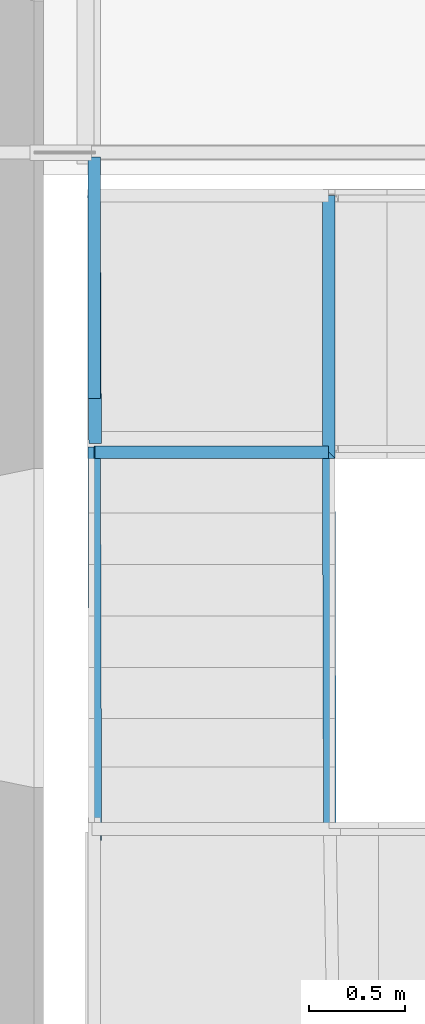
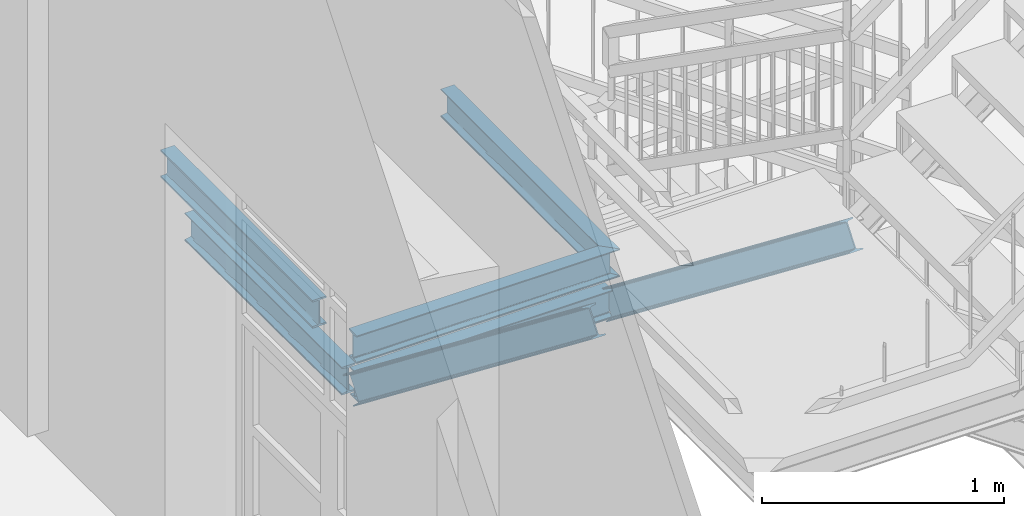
# One storey, part 10 of 33: 7 beams.
"""IFC2X3 building model written with IfcOpenShell, lengths in metres."""

import ifcopenshell
import ifcopenshell.guid

model = None  # the IFC model being written
_history = None  # IfcOwnerHistory: only IFC2X3 demands one
_inside = {}  # id of a spatial element -> (the spatial element, [elements in it])
_under = {}  # id of a project, library or spatial element -> (it, [spatial elements below it])
_declared = {}  # id of a project -> (the project, [libraries it declares])
_typed = {}  # id of a type object -> (the type object, [elements of that type])
_made_of = {}  # id of a material, layer set ... -> (it, [elements and type objects made of it])


def new_model(schema):
    """Start an empty IFC model of exactly this schema.

    Asked for "IFC4X3", IfcOpenShell would pick the latest addendum, in which some entities
    have other attributes; the version numbers below select the first issue.
    IFC2X3 requires an IfcOwnerHistory on every rooted entity: one is made here for all.
    """
    global model, _history
    if schema == "IFC4X3":
        model = ifcopenshell.file(schema_version=(4, 3, 0, 0))
    else:
        model = ifcopenshell.file(schema=schema)
    _inside.clear()
    _under.clear()
    _declared.clear()
    _typed.clear()
    _made_of.clear()
    _history = None
    if model.schema == "IFC2X3":
        org = make("IfcOrganization", Name="unknown")
        user = make(
            "IfcPersonAndOrganization",
            ThePerson=make("IfcPerson", FamilyName="unknown"),
            TheOrganization=org,
        )
        app = make(
            "IfcApplication",
            ApplicationDeveloper=org,
            Version="unknown",
            ApplicationFullName="unknown",
            ApplicationIdentifier="unknown",
        )
        _history = make(
            "IfcOwnerHistory",
            OwningUser=user,
            OwningApplication=app,
            ChangeAction="ADDED",
            CreationDate=0,
        )
    return model


def make(cls, **values):
    """One entity of the class cls with the attributes given. An attribute that is None is left unset."""
    return model.create_entity(
        cls, **{name: value for name, value in values.items() if value is not None}
    )


def entity(cls, *values):
    """Any entity or typed value of the class cls, its attributes in the order of the schema. None: left unset."""
    e = model.create_entity(cls)
    for i, value in enumerate(values):
        if value is not None:
            e[i] = value
    return e


def rooted(cls, **values):
    """An entity with a GlobalId (a new one), such as an element, a storey or a relation."""
    return make(cls, GlobalId=ifcopenshell.guid.new(), OwnerHistory=_history, **values)


def si_unit(unit_type, name, prefix=None):
    """IfcSIUnit, for example si_unit("LENGTHUNIT", "METRE", prefix="MILLI")."""
    return make("IfcSIUnit", UnitType=unit_type, Prefix=prefix, Name=name)


def converted_unit(unit_type, name, factor, base, dimensions=None, offset=None):
    """IfcConversionBasedUnit, such as the inch: factor (a typed value) times the base unit."""
    return make(
        "IfcConversionBasedUnit"
        if offset is None
        else "IfcConversionBasedUnitWithOffset",
        ConversionOffset=offset,
        Dimensions=None
        if dimensions is None
        else entity("IfcDimensionalExponents", *dimensions),
        UnitType=unit_type,
        Name=name,
        ConversionFactor=make(
            "IfcMeasureWithUnit", ValueComponent=factor, UnitComponent=base
        ),
    )


def derived_unit(unit_type, elements):
    """IfcDerivedUnit: a product of units, each with its exponent."""
    return make(
        "IfcDerivedUnit",
        Elements=[
            make("IfcDerivedUnitElement", Unit=unit, Exponent=power)
            for unit, power in elements
        ],
        UnitType=unit_type,
    )


def assignment(units):
    """IfcUnitAssignment: the units of a project."""
    return None if units is None else make("IfcUnitAssignment", Units=units)


def point(xyz):
    """IfcCartesianPoint."""
    return None if xyz is None else make("IfcCartesianPoint", Coordinates=xyz)


def direction(xyz):
    """IfcDirection."""
    return None if xyz is None else make("IfcDirection", DirectionRatios=xyz)


def frame(location, z_axis=None, x_axis=None):
    """IfcAxis2Placement3D, a coordinate frame: its origin and axes. An axis left out is left unset."""
    return make(
        "IfcAxis2Placement3D",
        Location=point(location),
        Axis=direction(z_axis),
        RefDirection=direction(x_axis),
    )


def frame_2d(location, x_axis=None):
    """IfcAxis2Placement2D, a coordinate frame in the plane: its origin and x axis."""
    return make(
        "IfcAxis2Placement2D", Location=point(location), RefDirection=direction(x_axis)
    )


def origin():
    """The frame at (0, 0, 0) with its axes left unset."""
    return frame((0.0, 0.0, 0.0))


def origin_2d():
    """The frame at (0, 0) in the plane with its x axis left unset."""
    return frame_2d((0.0, 0.0))


def place(relative_to, where):
    """IfcLocalPlacement: puts the frame where relative to a parent placement (None: the world)."""
    return make(
        "IfcLocalPlacement", PlacementRelTo=relative_to, RelativePlacement=where
    )


def context(
    kind, dimensions, precision=None, world=None, true_north=None, identifier=None
):
    """IfcGeometricRepresentationContext, for example the 3D "Model" context."""
    return make(
        "IfcGeometricRepresentationContext",
        ContextIdentifier=identifier,
        ContextType=kind,
        CoordinateSpaceDimension=dimensions,
        Precision=precision,
        WorldCoordinateSystem=world,
        TrueNorth=true_north,
    )


def subcontext(parent, identifier, kind, view, scale=None):
    """IfcGeometricRepresentationSubContext, for example "Body" below "Model"."""
    return make(
        "IfcGeometricRepresentationSubContext",
        ContextIdentifier=identifier,
        ContextType=kind,
        ParentContext=parent,
        TargetScale=scale,
        TargetView=view,
    )


def project(units=None, contexts=None):
    """IfcProject with its units and contexts."""
    return rooted(
        "IfcProject",
        Name="project",
        RepresentationContexts=contexts,
        UnitsInContext=assignment(units),
    )


def spatial(cls, under=None, at=None, **own):
    """A site, building, storey or space (cls), placed at a placement, below another one or the project."""
    s = rooted(cls, ObjectPlacement=at, **own)
    if under is not None:
        _under.setdefault(under.id(), (under, []))[1].append(s)
    return s


def polyline(points):
    """IfcPolyline through the points."""
    return make("IfcPolyline", Points=[point(p) for p in points])


def circle_curve(where, radius):
    """IfcCircle in the frame where."""
    return make("IfcCircle", Position=where, Radius=radius)


def parameter(value):
    """IfcParameterValue: where a trimmed curve begins or ends, as a parameter of its basis curve."""
    return model.create_entity("IfcParameterValue", value)


def trimmed(basis, trim1, trim2, sense, master):
    """IfcTrimmedCurve: the piece of a basis curve between two trims."""
    return make(
        "IfcTrimmedCurve",
        BasisCurve=basis,
        Trim1=trim1,
        Trim2=trim2,
        SenseAgreement=sense,
        MasterRepresentation=master,
    )


def segment(curve, same_sense, transition):
    """IfcCompositeCurveSegment."""
    return make(
        "IfcCompositeCurveSegment",
        Transition=transition,
        SameSense=same_sense,
        ParentCurve=curve,
    )


def composite_curve(segments, self_intersect=None):
    """IfcCompositeCurve: segments joined end to end."""
    return make("IfcCompositeCurve", Segments=segments, SelfIntersect=self_intersect)


def profile(cls, at=None, kind="AREA", **sizes):
    """A parametric profile (cls). Its sizes go by their IFC names, for example OverallWidth=200.0."""
    return make(cls, ProfileType=kind, Position=at, **sizes)


def i_section(**sizes):
    """IfcIShapeProfileDef."""
    return profile("IfcIShapeProfileDef", **sizes)


def outline(outer, holes=None, kind="AREA"):
    """IfcArbitraryClosedProfileDef: a profile drawn as a closed curve; with holes, ...WithVoids."""
    if holes is None:
        return make("IfcArbitraryClosedProfileDef", ProfileType=kind, OuterCurve=outer)
    return make(
        "IfcArbitraryProfileDefWithVoids",
        ProfileType=kind,
        OuterCurve=outer,
        InnerCurves=holes,
    )


def extrude(swept, where, along, depth):
    """IfcExtrudedAreaSolid: the profile swept, set in the frame where, extruded along a direction by depth."""
    return make(
        "IfcExtrudedAreaSolid",
        SweptArea=swept,
        Position=where,
        ExtrudedDirection=direction(along),
        Depth=depth,
    )


def clip(a, b, op="DIFFERENCE"):
    """IfcBooleanClippingResult: the solid a cut by the half space b."""
    return make(
        "IfcBooleanClippingResult", Operator=op, FirstOperand=a, SecondOperand=b
    )


def halfspace(plane, agree):
    """IfcHalfSpaceSolid: all space on one side of the plane z = 0 of the frame plane."""
    return make(
        "IfcHalfSpaceSolid",
        BaseSurface=make("IfcPlane", Position=plane),
        AgreementFlag=agree,
    )


def shape(context_of_items, identifier, shape_type, items):
    """IfcShapeRepresentation: the items that make up one representation, for example the "Body"."""
    return make(
        "IfcShapeRepresentation",
        ContextOfItems=context_of_items,
        RepresentationIdentifier=identifier,
        RepresentationType=shape_type,
        Items=items,
    )


def material(Name=None, Category=None):
    """IfcMaterial."""
    return make("IfcMaterial", Name=Name, Category=Category)


def made_of(thing, what):
    """Note that an element or type object is made of a material, layer set ...; save() writes the relation."""
    if what is not None:
        _made_of.setdefault(what.id(), (what, []))[1].append(thing)
    return thing


def type_object(cls, material=None, **own):
    """A type object (cls), such as IfcWallType, which elements share."""
    return made_of(rooted(cls, **own), material)


def element(
    cls,
    number,
    at=None,
    inside=None,
    cuts=None,
    type_object=None,
    material=None,
    context=None,
    identifier="Body",
    shape_type=None,
    held_by="IfcProductDefinitionShape",
    body=None,
    shapes=None,
    **own,
):
    """One element of the class cls, such as IfcWall. Its Tag is "e" and its number.

    at: its placement. inside: the storey or other place that contains it. cuts: it is an
    opening in that element (IfcRelVoidsElement). A single representation is given by context,
    identifier, shape_type and body (its items); several are given by shapes. held_by: the class
    of the entity that holds the representations. save() writes the other relations.
    """
    e = rooted(cls, Tag="e%d" % number, ObjectPlacement=at, **own)
    if body is not None:
        shapes = [shape(context, identifier, shape_type, body)]
    if shapes is not None:
        e.Representation = make(held_by, Representations=shapes)
    if inside is not None:
        _inside.setdefault(inside.id(), (inside, []))[1].append(e)
    if cuts is not None:
        rooted(
            "IfcRelVoidsElement", RelatingBuildingElement=cuts, RelatedOpeningElement=e
        )
    if type_object is not None:
        _typed.setdefault(type_object.id(), (type_object, []))[1].append(e)
    return made_of(e, material)


def aggregate(whole, parts):
    """IfcRelAggregates: a whole, such as a stair, and the parts it consists of."""
    return rooted("IfcRelAggregates", RelatingObject=whole, RelatedObjects=parts)


def save(model, path):
    """Write the relations noted so far, then the file.

    IfcRelAggregates (storeys below a building ...), IfcRelContainedInSpatialStructure (elements
    in a storey), IfcRelDefinesByType, IfcRelAssociatesMaterial and IfcRelDeclares: one each for
    every whole, place, type object, material and project.
    """
    for whole, parts in _under.values():
        aggregate(whole, parts)
    for where, things in _inside.values():
        rooted(
            "IfcRelContainedInSpatialStructure",
            RelatedElements=things,
            RelatingStructure=where,
        )
    for kind, things in _typed.values():
        rooted("IfcRelDefinesByType", RelatedObjects=things, RelatingType=kind)
    for what, things in _made_of.values():
        rooted("IfcRelAssociatesMaterial", RelatedObjects=things, RelatingMaterial=what)
    for by, libraries in _declared.values():
        rooted("IfcRelDeclares", RelatingContext=by, RelatedDefinitions=libraries)
    model.write(path)


model = new_model("IFC2X3")

# Units and contexts
model_context = context("Model", 3, precision=1e-05, world=origin(), true_north=direction((6.12303176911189e-17, 1.0)))
body_context = subcontext(model_context, "Body", "Model", "MODEL_VIEW")
ifc_project = project(units=[si_unit("LENGTHUNIT", "METRE"), si_unit("AREAUNIT", "SQUARE_METRE"), si_unit("VOLUMEUNIT", "CUBIC_METRE"), converted_unit("PLANEANGLEUNIT", "DEGREE", entity("IfcRatioMeasure", 0.0174532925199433), si_unit("PLANEANGLEUNIT", "RADIAN"), dimensions=[0, 0, 0, 0, 0, 0, 0]), si_unit("MASSUNIT", "GRAM", prefix="KILO"), derived_unit("MASSDENSITYUNIT", [(si_unit("MASSUNIT", "GRAM", prefix="KILO"), 1), (si_unit("LENGTHUNIT", "METRE"), -3)]), derived_unit("MOMENTOFINERTIAUNIT", [(si_unit("LENGTHUNIT", "METRE"), 4)]), si_unit("TIMEUNIT", "SECOND"), si_unit("FREQUENCYUNIT", "HERTZ"), si_unit("THERMODYNAMICTEMPERATUREUNIT", "DEGREE_CELSIUS"), derived_unit("THERMALTRANSMITTANCEUNIT", [(si_unit("MASSUNIT", "GRAM", prefix="KILO"), 1), (si_unit("THERMODYNAMICTEMPERATUREUNIT", "KELVIN"), -1), (si_unit("TIMEUNIT", "SECOND"), -3)]), derived_unit("VOLUMETRICFLOWRATEUNIT", [(si_unit("LENGTHUNIT", "METRE"), 3), (si_unit("TIMEUNIT", "SECOND"), -1)]), si_unit("ELECTRICCURRENTUNIT", "AMPERE"), si_unit("ELECTRICVOLTAGEUNIT", "VOLT"), si_unit("POWERUNIT", "WATT"), si_unit("FORCEUNIT", "NEWTON", prefix="KILO"), si_unit("ILLUMINANCEUNIT", "LUX"), si_unit("LUMINOUSFLUXUNIT", "LUMEN"), si_unit("LUMINOUSINTENSITYUNIT", "CANDELA"), derived_unit("USERDEFINED", [(si_unit("MASSUNIT", "GRAM", prefix="KILO"), -1), (si_unit("LENGTHUNIT", "METRE"), -2), (si_unit("TIMEUNIT", "SECOND"), 3), (si_unit("LUMINOUSFLUXUNIT", "LUMEN"), 1)]), derived_unit("LINEARVELOCITYUNIT", [(si_unit("LENGTHUNIT", "METRE"), 1), (si_unit("TIMEUNIT", "SECOND"), -1)]), si_unit("PRESSUREUNIT", "PASCAL"), derived_unit("USERDEFINED", [(si_unit("LENGTHUNIT", "METRE"), -2), (si_unit("MASSUNIT", "GRAM", prefix="KILO"), 1), (si_unit("TIMEUNIT", "SECOND"), -2)]), derived_unit("LINEARFORCEUNIT", [(si_unit("MASSUNIT", "GRAM", prefix="KILO"), 1), (si_unit("LENGTHUNIT", "METRE"), 1), (si_unit("TIMEUNIT", "SECOND"), -2), (si_unit("LENGTHUNIT", "METRE"), -1)]), derived_unit("PLANARFORCEUNIT", [(si_unit("MASSUNIT", "GRAM", prefix="KILO"), 1), (si_unit("LENGTHUNIT", "METRE"), 1), (si_unit("TIMEUNIT", "SECOND"), -2), (si_unit("LENGTHUNIT", "METRE"), -2)])], contexts=[model_context])

# Site, building, storey
site_placement = place(None, origin())
site = spatial("IfcSite", under=ifc_project, at=site_placement, Name="Superficie", CompositionType="ELEMENT")
building_placement = place(site_placement, origin())
building = spatial("IfcBuilding", under=site, at=building_placement, Name="Telegestiones", CompositionType="ELEMENT")
storey_placement = place(building_placement, frame((0.0, 0.0, 4.94)))
storey = spatial("IfcBuildingStorey", under=building, at=storey_placement, Name="Nivel 1_NPT", CompositionType="ELEMENT", Elevation=4.94)

# Beams
ifc_material = material(Name="Metal - Acero - 345 MPa")
beam_type_1 = type_object("IfcBeamType", Name="IPN - Secciones en I con alas cónicas:IPN 140", PredefinedType="NOTDEFINED")
beam_1_placement = place(storey_placement, frame((7.5665983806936, 6.21162508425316, 1.65965000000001), z_axis=(0.0, 0.0, 1.0), x_axis=(0.0, -1.0, 0.0)))
element("IfcBeam", 1, at=beam_1_placement, inside=storey, type_object=beam_type_1, material=ifc_material, Name="IPN - Secciones en I con alas cónicas:IPN 140", ObjectType="IPN - Secciones en I con alas cónicas:IPN 140", context=body_context, shape_type="SweptSolid", body=[
    clip(extrude(outline(composite_curve([segment(polyline([(-0.0699999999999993, -0.0330000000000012), (-0.0666671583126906, -0.0330000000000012)]), True, "CONTINUOUS"), segment(trimmed(circle_curve(frame_2d((-0.0666671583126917, -0.0296000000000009), x_axis=(0.0, -1.0)), 0.00340000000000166), [parameter(0.0)], [parameter(82.0303896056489)], True, "PARAMETER"), True, "CONTINUOUS"), segment(polyline([(-0.0632999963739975, -0.0300714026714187), (-0.060176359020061, -0.00775970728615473)]), True, "CONTINUOUS"), segment(trimmed(circle_curve(frame_2d((-0.0545314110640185, -0.00855000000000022), x_axis=(-0.990341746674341, 0.138647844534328)), 0.00569999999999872), [parameter(277.969610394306)], [parameter(0.0)], True, "PARAMETER"), False, "CONTINUOUS"), segment(polyline([(-0.0545314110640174, -0.00285000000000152), (0.0545314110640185, -0.00285000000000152)]), True, "CONTINUOUS"), segment(trimmed(circle_curve(frame_2d((0.0545314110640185, -0.00855000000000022), x_axis=(0.0, 1.0)), 0.00569999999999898), [parameter(277.969610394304)], [parameter(0.0)], True, "PARAMETER"), False, "CONTINUOUS"), segment(polyline([(0.0601763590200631, -0.00775970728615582), (0.0632999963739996, -0.0300714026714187)]), True, "CONTINUOUS"), segment(trimmed(circle_curve(frame_2d((0.0666671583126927, -0.0296000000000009), x_axis=(-0.990341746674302, -0.138647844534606)), 0.00340000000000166), [parameter(0.0)], [parameter(82.0303896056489)], True, "PARAMETER"), True, "CONTINUOUS"), segment(polyline([(0.0666671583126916, -0.0330000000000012), (0.0700000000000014, -0.0330000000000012)]), True, "CONTINUOUS"), segment(polyline([(0.0700000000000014, -0.0330000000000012), (0.0700000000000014, 0.0329999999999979)]), True, "CONTINUOUS"), segment(polyline([(0.0700000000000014, 0.0329999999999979), (0.0666671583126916, 0.0329999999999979)]), True, "CONTINUOUS"), segment(trimmed(circle_curve(frame_2d((0.0666671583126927, 0.0295999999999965), x_axis=(0.0, 1.0)), 0.00340000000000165), [parameter(0.0)], [parameter(82.0303896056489)], True, "PARAMETER"), True, "CONTINUOUS"), segment(polyline([(0.0632999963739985, 0.0300714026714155), (0.0601763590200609, 0.00775970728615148)]), True, "CONTINUOUS"), segment(trimmed(circle_curve(frame_2d((0.0545314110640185, 0.00854999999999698), x_axis=(0.990341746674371, -0.138647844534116)), 0.00569999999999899), [parameter(277.969610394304)], [parameter(0.0)], True, "PARAMETER"), False, "CONTINUOUS"), segment(polyline([(0.0545314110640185, 0.00284999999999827), (-0.0545314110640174, 0.00284999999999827)]), True, "CONTINUOUS"), segment(trimmed(circle_curve(frame_2d((-0.0545314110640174, 0.00854999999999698), x_axis=(0.0, -1.0)), 0.00569999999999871), [parameter(277.969610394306)], [parameter(0.0)], True, "PARAMETER"), False, "CONTINUOUS"), segment(polyline([(-0.060176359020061, 0.00775970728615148), (-0.0632999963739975, 0.0300714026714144)]), True, "CONTINUOUS"), segment(trimmed(circle_curve(frame_2d((-0.0666671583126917, 0.0295999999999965), x_axis=(0.990341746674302, 0.138647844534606)), 0.00340000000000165), [parameter(0.0)], [parameter(82.0303896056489)], True, "PARAMETER"), True, "CONTINUOUS"), segment(polyline([(-0.0666671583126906, 0.0329999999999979), (-0.0699999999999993, 0.0329999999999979)]), True, "CONTINUOUS"), segment(polyline([(-0.0699999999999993, 0.0329999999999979), (-0.0699999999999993, -0.0330000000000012)]), True, "CONTINUOUS")], self_intersect=False)), frame((0.000133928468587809, 0.0, -0.0700000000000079), z_axis=(1.0, 0.0, 0.0), x_axis=(0.0, 0.0, -1.0)), (0.0, 0.0, 1.0), 1.36713392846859), halfspace(frame((1.30126785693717, -0.0330000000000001, 0.0), z_axis=(0.707106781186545, -0.70710678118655, 0.0), x_axis=(0.70710678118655, 0.707106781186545, 0.0)), False)),
])
beam_2_placement = place(storey_placement, frame((6.3478126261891, 4.87735722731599, 1.65965000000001)))
element("IfcBeam", 2, at=beam_2_placement, inside=storey, type_object=beam_type_1, material=ifc_material, Name="IPN - Secciones en I con alas cónicas:IPN 140", ObjectType="IPN - Secciones en I con alas cónicas:IPN 140", context=body_context, shape_type="SweptSolid", body=[
    clip(extrude(outline(composite_curve([segment(polyline([(-0.0699999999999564, -0.0330000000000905), (-0.0666671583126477, -0.0330000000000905)]), True, "CONTINUOUS"), segment(trimmed(circle_curve(frame_2d((-0.0666671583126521, -0.0296000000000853), x_axis=(0.0, -1.0)), 0.0034000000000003), [parameter(0.0)], [parameter(82.0303896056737)], True, "PARAMETER"), True, "CONTINUOUS"), segment(polyline([(-0.0632999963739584, -0.0300714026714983), (-0.0601763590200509, -0.00775970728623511)]), True, "CONTINUOUS"), segment(trimmed(circle_curve(frame_2d((-0.0545314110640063, -0.00855000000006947), x_axis=(-0.990341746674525, 0.138647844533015)), 0.00569999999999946), [parameter(277.969610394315)], [parameter(0.0)], True, "PARAMETER"), False, "CONTINUOUS"), segment(polyline([(-0.0545314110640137, -0.00285000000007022), (0.0545314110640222, -0.00284999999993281)]), True, "CONTINUOUS"), segment(trimmed(circle_curve(frame_2d((0.0545314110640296, -0.00854999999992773), x_axis=(0.0, 1.0)), 0.00569999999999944), [parameter(277.969610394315)], [parameter(0.0)], True, "PARAMETER"), False, "CONTINUOUS"), segment(polyline([(0.0601763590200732, -0.0077597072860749), (0.0632999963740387, -0.0300714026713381)]), True, "CONTINUOUS"), segment(trimmed(circle_curve(frame_2d((0.0666671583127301, -0.029599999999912), x_axis=(-0.990341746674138, -0.138647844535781)), 0.0034000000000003), [parameter(0.0)], [parameter(82.0303896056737)], True, "PARAMETER"), True, "CONTINUOUS"), segment(polyline([(0.0666671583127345, -0.0329999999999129), (0.0700000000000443, -0.0329999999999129)]), True, "CONTINUOUS"), segment(polyline([(0.0700000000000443, -0.0329999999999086), (0.0699999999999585, 0.0330000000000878)]), True, "CONTINUOUS"), segment(polyline([(0.0699999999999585, 0.0330000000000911), (0.0666671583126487, 0.0330000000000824)]), True, "CONTINUOUS"), segment(trimmed(circle_curve(frame_2d((0.0666671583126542, 0.0296000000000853), x_axis=(0.0, 1.0)), 0.00340000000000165), [parameter(0.0)], [parameter(82.0303896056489)], True, "PARAMETER"), True, "CONTINUOUS"), segment(polyline([(0.0632999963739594, 0.0300714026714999), (0.0601763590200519, 0.00775970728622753)]), True, "CONTINUOUS"), segment(trimmed(circle_curve(frame_2d((0.0545314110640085, 0.00855000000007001), x_axis=(0.990341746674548, -0.138647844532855)), 0.0056999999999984), [parameter(277.969610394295)], [parameter(0.0)], True, "PARAMETER"), False, "CONTINUOUS"), segment(polyline([(0.0545314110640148, 0.00285000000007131), (-0.05453141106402, 0.00284999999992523)]), True, "CONTINUOUS"), segment(trimmed(circle_curve(frame_2d((-0.0545314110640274, 0.00854999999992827), x_axis=(0.0, -1.0)), 0.00569999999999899), [parameter(277.969610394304)], [parameter(0.0)], True, "PARAMETER"), False, "CONTINUOUS"), segment(polyline([(-0.060176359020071, 0.00775970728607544), (-0.0632999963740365, 0.0300714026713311)]), True, "CONTINUOUS"), segment(trimmed(circle_curve(frame_2d((-0.0666671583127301, 0.029599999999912), x_axis=(0.990341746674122, 0.138647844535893)), 0.00340000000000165), [parameter(0.0)], [parameter(82.0303896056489)], True, "PARAMETER"), True, "CONTINUOUS"), segment(polyline([(-0.0666671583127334, 0.0329999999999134), (-0.0700000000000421, 0.0329999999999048)]), True, "CONTINUOUS"), segment(polyline([(-0.0700000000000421, 0.0329999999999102), (-0.0699999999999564, -0.0330000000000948)]), True, "CONTINUOUS")], self_intersect=False)), frame((-0.00245712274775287, 0.0, -0.0700000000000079), z_axis=(1.0, 0.0, 0.0), x_axis=(0.0, 0.0, -1.0)), (0.0, 0.0, 1.0), 1.25424287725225), halfspace(frame((1.1857857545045, 0.0330000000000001, 0.0), z_axis=(0.707106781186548, 0.707106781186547, 0.0), x_axis=(0.707106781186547, -0.707106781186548, 0.0)), False)),
])
beam_3_placement = place(storey_placement, frame((6.35214331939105, 4.87760722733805, 1.46300747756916), z_axis=(-0.000899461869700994, 0.0, 0.999999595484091), x_axis=(0.999999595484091, 0.0, 0.000899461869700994)))
element("IfcBeam", 3, at=beam_3_placement, inside=storey, type_object=beam_type_1, material=ifc_material, Name="IPN - Secciones en I con alas cónicas:IPN 140", ObjectType="IPN - Secciones en I con alas cónicas:IPN 140", context=body_context, shape_type="SweptSolid", body=[
    extrude(outline(composite_curve([segment(polyline([(-0.0699999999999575, -0.0330000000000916), (-0.0666671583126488, -0.0330000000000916)]), True, "CONTINUOUS"), segment(trimmed(circle_curve(frame_2d((-0.0666671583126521, -0.0296000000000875), x_axis=(0.0, -1.0)), 0.00339999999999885), [parameter(0.0)], [parameter(82.0303896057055)], True, "PARAMETER"), True, "CONTINUOUS"), segment(polyline([(-0.0632999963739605, -0.0300714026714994), (-0.060176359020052, -0.00775970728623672)]), True, "CONTINUOUS"), segment(trimmed(circle_curve(frame_2d((-0.0545314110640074, -0.00855000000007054), x_axis=(-0.990341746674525, 0.138647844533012)), 0.00569999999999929), [parameter(277.969610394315)], [parameter(0.0)], True, "PARAMETER"), False, "CONTINUOUS"), segment(polyline([(-0.0545314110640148, -0.0028500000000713), (0.0545314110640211, -0.00284999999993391)]), True, "CONTINUOUS"), segment(trimmed(circle_curve(frame_2d((0.0545314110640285, -0.00854999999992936), x_axis=(0.0, 1.0)), 0.00569999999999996), [parameter(277.96961039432)], [parameter(0.0)], True, "PARAMETER"), False, "CONTINUOUS"), segment(polyline([(0.0601763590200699, -0.00775970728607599), (0.0632999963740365, -0.0300714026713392)]), True, "CONTINUOUS"), segment(trimmed(circle_curve(frame_2d((0.0666671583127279, -0.0295999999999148), x_axis=(-0.990341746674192, -0.13864784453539)), 0.00339999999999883), [parameter(0.0)], [parameter(82.0303896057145)], True, "PARAMETER"), True, "CONTINUOUS"), segment(polyline([(0.0666671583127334, -0.032999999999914), (0.0700000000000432, -0.032999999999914)]), True, "CONTINUOUS"), segment(polyline([(0.0700000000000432, -0.0329999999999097), (0.0699999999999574, 0.0330000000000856)]), True, "CONTINUOUS"), segment(polyline([(0.0699999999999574, 0.03300000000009), (0.0666671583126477, 0.0330000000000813)]), True, "CONTINUOUS"), segment(trimmed(circle_curve(frame_2d((0.066667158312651, 0.0296000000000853), x_axis=(0.0, 1.0)), 0.00340000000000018), [parameter(0.0)], [parameter(82.0303896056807)], True, "PARAMETER"), True, "CONTINUOUS"), segment(polyline([(0.0632999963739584, 0.0300714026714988), (0.0601763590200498, 0.00775970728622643)]), True, "CONTINUOUS"), segment(trimmed(circle_curve(frame_2d((0.0545314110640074, 0.00855000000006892), x_axis=(0.990341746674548, -0.138647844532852)), 0.00569999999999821), [parameter(277.969610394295)], [parameter(0.0)], True, "PARAMETER"), False, "CONTINUOUS"), segment(polyline([(0.0545314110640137, 0.00285000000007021), (-0.0545314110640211, 0.00284999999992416)]), True, "CONTINUOUS"), segment(trimmed(circle_curve(frame_2d((-0.0545314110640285, 0.00854999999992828), x_axis=(0.0, -1.0)), 0.00569999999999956), [parameter(277.969610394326)], [parameter(0.0)], True, "PARAMETER"), False, "CONTINUOUS"), segment(polyline([(-0.060176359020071, 0.00775970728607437), (-0.0632999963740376, 0.0300714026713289)]), True, "CONTINUOUS"), segment(trimmed(circle_curve(frame_2d((-0.0666671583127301, 0.0295999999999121), x_axis=(0.990341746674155, 0.138647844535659)), 0.0034000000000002), [parameter(0.0)], [parameter(82.0303896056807)], True, "PARAMETER"), True, "CONTINUOUS"), segment(polyline([(-0.0666671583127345, 0.0329999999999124), (-0.0700000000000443, 0.0329999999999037)]), True, "CONTINUOUS"), segment(polyline([(-0.0700000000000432, 0.032999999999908), (-0.0699999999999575, -0.0330000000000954)]), True, "CONTINUOUS")], self_intersect=False)), frame((-0.000787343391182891, 0.0, -0.070000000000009), z_axis=(1.0, 0.0, 0.0), x_axis=(0.0, 0.0, -1.0)), (0.0, 0.0, 1.0), 1.21496729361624),
])
beam_4_placement = place(storey_placement, frame((7.5665983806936, 4.8803149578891, 1.46316230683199), z_axis=(-0.00187395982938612, 0.614083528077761, 0.789238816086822), x_axis=(0.0024084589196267, -0.789235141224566, 0.614086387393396)))
element("IfcBeam", 4, at=beam_4_placement, inside=storey, type_object=beam_type_1, material=ifc_material, Name="IPN - Secciones en I con alas cónicas:IPN 140", ObjectType="IPN - Secciones en I con alas cónicas:IPN 140", context=body_context, shape_type="SweptSolid", body=[
    extrude(outline(composite_curve([segment(polyline([(0.0666671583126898, -0.033000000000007), (0.0699999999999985, -0.0330000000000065)]), True, "CONTINUOUS"), segment(polyline([(0.0699999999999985, -0.0330000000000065), (0.0700000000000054, 0.032999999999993)]), True, "CONTINUOUS"), segment(polyline([(0.0700000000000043, 0.032999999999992), (0.0666671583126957, 0.0329999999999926)]), True, "CONTINUOUS"), segment(trimmed(circle_curve(frame_2d((0.0666671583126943, 0.0295999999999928), x_axis=(0.0, 1.0)), 0.00339999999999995), [parameter(0.0)], [parameter(82.0303896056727)], True, "PARAMETER"), True, "CONTINUOUS"), segment(polyline([(0.0632999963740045, 0.030071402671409), (0.0601763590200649, 0.00775970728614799)]), True, "CONTINUOUS"), segment(trimmed(circle_curve(frame_2d((0.0545314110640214, 0.00854999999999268), x_axis=(0.990341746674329, -0.138647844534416)), 0.00569999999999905), [parameter(277.969610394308)], [parameter(0.0)], True, "PARAMETER"), False, "CONTINUOUS"), segment(polyline([(0.0545314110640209, 0.00284999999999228), (-0.0545314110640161, 0.00285000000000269)]), True, "CONTINUOUS"), segment(trimmed(circle_curve(frame_2d((-0.0545314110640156, 0.00855000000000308), x_axis=(0.0, -1.0)), 0.00569999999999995), [parameter(277.969610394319)], [parameter(0.0)], True, "PARAMETER"), False, "CONTINUOUS"), segment(polyline([(-0.0601763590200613, 0.00775970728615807), (-0.0632999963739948, 0.0300714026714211)]), True, "CONTINUOUS"), segment(trimmed(circle_curve(frame_2d((-0.0666671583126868, 0.0296000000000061), x_axis=(0.990341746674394, 0.13864784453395)), 0.00339999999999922), [parameter(0.0)], [parameter(82.0303896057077)], True, "PARAMETER"), True, "CONTINUOUS"), segment(polyline([(-0.0666671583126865, 0.0330000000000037), (-0.0699999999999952, 0.0330000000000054)]), True, "CONTINUOUS"), segment(polyline([(-0.0699999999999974, 0.0330000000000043), (-0.0700000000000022, -0.0329999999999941)]), True, "CONTINUOUS"), segment(polyline([(-0.0700000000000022, -0.0329999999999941), (-0.0666671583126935, -0.0329999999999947)]), True, "CONTINUOUS"), segment(trimmed(circle_curve(frame_2d((-0.0666671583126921, -0.0295999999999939), x_axis=(0.0, -1.0)), 0.00340000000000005), [parameter(0.0)], [parameter(82.0303896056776)], True, "PARAMETER"), True, "CONTINUOUS"), segment(polyline([(-0.0632999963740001, -0.0300714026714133), (-0.0601763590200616, -0.00775970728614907)]), True, "CONTINUOUS"), segment(trimmed(circle_curve(frame_2d((-0.0545314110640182, -0.00854999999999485), x_axis=(-0.990341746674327, 0.138647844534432)), 0.00569999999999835), [parameter(277.969610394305)], [parameter(0.0)], True, "PARAMETER"), False, "CONTINUOUS"), segment(polyline([(-0.0545314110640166, -0.00284999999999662), (0.0545314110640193, -0.00285000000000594)]), True, "CONTINUOUS"), segment(trimmed(circle_curve(frame_2d((0.0545314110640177, -0.00855000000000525), x_axis=(0.0, 1.0)), 0.00569999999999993), [parameter(277.969610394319)], [parameter(0.0)], True, "PARAMETER"), False, "CONTINUOUS"), segment(polyline([(0.0601763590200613, -0.00775970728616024), (0.0632999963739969, -0.0300714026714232)]), True, "CONTINUOUS"), segment(trimmed(circle_curve(frame_2d((0.0666671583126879, -0.0296000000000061), x_axis=(-0.990341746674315, -0.138647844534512)), 0.00340000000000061), [parameter(0.0)], [parameter(82.0303896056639)], True, "PARAMETER"), True, "CONTINUOUS")], self_intersect=False)), frame((-0.0618000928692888, 0.0, -0.0700000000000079), z_axis=(1.0, 0.0, 0.0), x_axis=(0.0, 0.0, -1.0)), (0.0, 0.0, 1.0), 2.53),
])
beam_5_placement = place(storey_placement, frame((6.34663145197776, 6.21161177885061, 1.463162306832), z_axis=(4.79545443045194e-07, -0.000116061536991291, 0.999999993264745), x_axis=(0.00413178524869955, -0.999991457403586, -0.000116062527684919)))
element("IfcBeam", 5, at=beam_5_placement, inside=storey, type_object=beam_type_1, material=ifc_material, Name="IPN - Secciones en I con alas cónicas:IPN 140", ObjectType="IPN - Secciones en I con alas cónicas:IPN 140", context=body_context, shape_type="SweptSolid", body=[
    extrude(outline(composite_curve([segment(polyline([(0.0666671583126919, -0.0329999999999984), (0.0700000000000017, -0.032999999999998)]), True, "CONTINUOUS"), segment(polyline([(0.0700000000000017, -0.032999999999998), (0.0700000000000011, 0.0330000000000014)]), True, "CONTINUOUS"), segment(polyline([(0.0700000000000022, 0.0330000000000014), (0.0666671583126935, 0.033000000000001)]), True, "CONTINUOUS"), segment(trimmed(circle_curve(frame_2d((0.0666671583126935, 0.0296000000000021), x_axis=(0.0, 1.0)), 0.00339999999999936), [parameter(0.0)], [parameter(82.0303896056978)], True, "PARAMETER"), True, "CONTINUOUS"), segment(polyline([(0.0632999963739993, 0.0300714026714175), (0.060176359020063, 0.0077597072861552)]), True, "CONTINUOUS"), segment(trimmed(circle_curve(frame_2d((0.0545314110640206, 0.0085500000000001), x_axis=(0.990341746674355, -0.13864784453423)), 0.00569999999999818), [parameter(277.969610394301)], [parameter(0.0)], True, "PARAMETER"), False, "CONTINUOUS"), segment(polyline([(0.0545314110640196, 0.00285000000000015), (-0.0545314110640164, 0.0028499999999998)]), True, "CONTINUOUS"), segment(trimmed(circle_curve(frame_2d((-0.0545314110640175, 0.00854999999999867), x_axis=(0.0, -1.0)), 0.0056999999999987), [parameter(277.969610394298)], [parameter(0.0)], True, "PARAMETER"), False, "CONTINUOUS"), segment(polyline([(-0.0601763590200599, 0.00775970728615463), (-0.0632999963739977, 0.030071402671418)]), True, "CONTINUOUS"), segment(trimmed(circle_curve(frame_2d((-0.0666671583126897, 0.0296000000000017), x_axis=(0.990341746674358, 0.138647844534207)), 0.0033999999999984), [parameter(0.0)], [parameter(82.030389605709)], True, "PARAMETER"), True, "CONTINUOUS"), segment(polyline([(-0.0666671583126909, 0.0330000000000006), (-0.0699999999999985, 0.0330000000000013)]), True, "CONTINUOUS"), segment(polyline([(-0.0699999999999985, 0.0330000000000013), (-0.0699999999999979, -0.0329999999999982)]), True, "CONTINUOUS"), segment(polyline([(-0.0699999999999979, -0.0329999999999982), (-0.0666671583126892, -0.0329999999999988)]), True, "CONTINUOUS"), segment(trimmed(circle_curve(frame_2d((-0.0666671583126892, -0.0295999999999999), x_axis=(0.0, -1.0)), 0.00339999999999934), [parameter(0.0)], [parameter(82.0303896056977)], True, "PARAMETER"), True, "CONTINUOUS"), segment(polyline([(-0.0632999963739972, -0.0300714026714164), (-0.0601763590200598, -0.00775970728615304)]), True, "CONTINUOUS"), segment(trimmed(circle_curve(frame_2d((-0.0545314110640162, -0.00854999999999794), x_axis=(-0.990341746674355, 0.13864784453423)), 0.0056999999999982), [parameter(277.969610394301)], [parameter(0.0)], True, "PARAMETER"), False, "CONTINUOUS"), segment(polyline([(-0.0545314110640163, -0.00284999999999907), (0.0545314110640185, -0.00284999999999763)]), True, "CONTINUOUS"), segment(trimmed(circle_curve(frame_2d((0.0545314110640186, -0.00854999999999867), x_axis=(0.0, 1.0)), 0.00570000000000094), [parameter(277.969610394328)], [parameter(0.0)], True, "PARAMETER"), False, "CONTINUOUS"), segment(polyline([(0.0601763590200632, -0.00775970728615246), (0.0632999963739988, -0.0300714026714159)]), True, "CONTINUOUS"), segment(trimmed(circle_curve(frame_2d((0.0666671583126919, -0.0295999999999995), x_axis=(-0.990341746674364, -0.138647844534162)), 0.00339999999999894), [parameter(0.0)], [parameter(82.0303896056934)], True, "PARAMETER"), True, "CONTINUOUS")], self_intersect=False)), frame((7.97373620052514e-06, 0.0, -0.0700000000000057), z_axis=(1.0, 0.0, 0.0), x_axis=(0.0, 0.0, -1.0)), (0.0, 0.0, 1.0), 1.288),
])
beam_6_placement = place(storey_placement, frame((6.34681654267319, 4.8765926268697, 1.46316230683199), z_axis=(-0.00187395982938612, 0.614083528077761, 0.789238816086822), x_axis=(0.0024084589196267, -0.789235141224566, 0.614086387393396)))
element("IfcBeam", 6, at=beam_6_placement, inside=storey, type_object=beam_type_1, material=ifc_material, Name="IPN - Secciones en I con alas cónicas:IPN 140", ObjectType="IPN - Secciones en I con alas cónicas:IPN 140", context=body_context, shape_type="SweptSolid", body=[
    extrude(outline(composite_curve([segment(polyline([(0.0666671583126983, -0.0329999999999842), (0.0700000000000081, -0.0329999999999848)]), True, "CONTINUOUS"), segment(polyline([(0.0700000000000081, -0.0329999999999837), (0.0699999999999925, 0.0330000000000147)]), True, "CONTINUOUS"), segment(polyline([(0.0699999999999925, 0.0330000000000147), (0.0666671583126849, 0.0330000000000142)]), True, "CONTINUOUS"), segment(trimmed(circle_curve(frame_2d((0.0666671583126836, 0.0296000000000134), x_axis=(0.0, 1.0)), 0.00340000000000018), [parameter(0.0)], [parameter(82.0303896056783)], True, "PARAMETER"), True, "CONTINUOUS"), segment(polyline([(0.0632999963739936, 0.0300714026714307), (0.0601763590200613, 0.00775970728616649)]), True, "CONTINUOUS"), segment(trimmed(circle_curve(frame_2d((0.0545314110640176, 0.00855000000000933), x_axis=(0.990341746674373, -0.138647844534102)), 0.00569999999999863), [parameter(277.969610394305)], [parameter(0.0)], True, "PARAMETER"), False, "CONTINUOUS"), segment(polyline([(0.0545314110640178, 0.00285000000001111), (-0.0545314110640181, 0.00284999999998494)]), True, "CONTINUOUS"), segment(trimmed(circle_curve(frame_2d((-0.0545314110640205, 0.00854999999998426), x_axis=(0.0, -1.0)), 0.00569999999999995), [parameter(277.969610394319)], [parameter(0.0)], True, "PARAMETER"), False, "CONTINUOUS"), segment(polyline([(-0.0601763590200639, 0.00775970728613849), (-0.0632999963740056, 0.0300714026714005)]), True, "CONTINUOUS"), segment(trimmed(circle_curve(frame_2d((-0.0666671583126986, 0.0295999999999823), x_axis=(0.99034174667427, 0.138647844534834)), 0.00340000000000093), [parameter(0.0)], [parameter(82.0303896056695)], True, "PARAMETER"), True, "CONTINUOUS"), segment(polyline([(-0.0666671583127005, 0.0329999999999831), (-0.0700000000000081, 0.0329999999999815)]), True, "CONTINUOUS"), segment(polyline([(-0.0700000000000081, 0.0329999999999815), (-0.0699999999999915, -0.033000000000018)]), True, "CONTINUOUS"), segment(polyline([(-0.0699999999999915, -0.0330000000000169), (-0.0666671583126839, -0.0330000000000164)]), True, "CONTINUOUS"), segment(trimmed(circle_curve(frame_2d((-0.0666671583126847, -0.0296000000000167), x_axis=(0.0, -1.0)), 0.00339999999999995), [parameter(0.0)], [parameter(82.0303896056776)], True, "PARAMETER"), True, "CONTINUOUS"), segment(polyline([(-0.0632999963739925, -0.0300714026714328), (-0.0601763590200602, -0.00775970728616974)]), True, "CONTINUOUS"), segment(trimmed(circle_curve(frame_2d((-0.0545314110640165, -0.00855000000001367), x_axis=(-0.990341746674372, 0.138647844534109)), 0.00569999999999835), [parameter(277.969610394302)], [parameter(0.0)], True, "PARAMETER"), False, "CONTINUOUS"), segment(polyline([(-0.0545314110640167, -0.00285000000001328), (0.0545314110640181, -0.0028499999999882)]), True, "CONTINUOUS"), segment(trimmed(circle_curve(frame_2d((0.0545314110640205, -0.00854999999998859), x_axis=(0.0, 1.0)), 0.00569999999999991), [parameter(277.969610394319)], [parameter(0.0)], True, "PARAMETER"), False, "CONTINUOUS"), segment(polyline([(0.0601763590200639, -0.00775970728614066), (0.0632999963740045, -0.0300714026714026)]), True, "CONTINUOUS"), segment(trimmed(circle_curve(frame_2d((0.0666671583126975, -0.0295999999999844), x_axis=(-0.990341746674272, -0.13864784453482)), 0.00340000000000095), [parameter(0.0)], [parameter(82.0303896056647)], True, "PARAMETER"), True, "CONTINUOUS")], self_intersect=False)), frame((-0.0369865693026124, 0.0, -0.0700000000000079), z_axis=(1.0, 0.0, 0.0), x_axis=(0.0, 0.0, -1.0)), (0.0, 0.0, 1.0), 2.48387451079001),
])
beam_type_2 = type_object("IfcBeamType", Name="IPN - Secciones en I con alas cónicas:IPN 140", PredefinedType="BEAM")
beam_7_placement = place(storey_placement, frame((6.347812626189, 6.411589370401, 1.58965), z_axis=(0.0, 1.0, 0.0), x_axis=(-1.0, 0.0, 0.0)))
element("IfcBeam", 7, at=beam_7_placement, inside=storey, type_object=beam_type_2, material=ifc_material, Name="IPN - Secciones en I con alas cónicas:IPN 140", ObjectType="IPN 140", context=model_context, shape_type="SweptSolid", body=[
    extrude(i_section(OverallWidth=0.066, OverallDepth=0.14, WebThickness=0.0057, FlangeThickness=0.0086, FilletRadius=0.0057, at=origin_2d()), origin(), (0.0, 0.0, -1.0), 1.253788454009),
])

save(model, "model.ifc")
